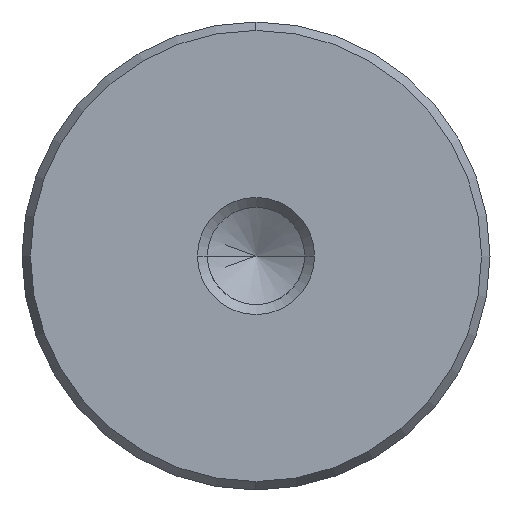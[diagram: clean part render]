
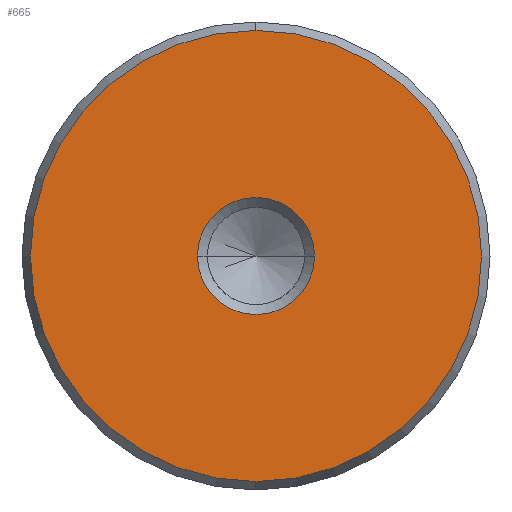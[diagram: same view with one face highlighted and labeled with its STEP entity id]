
A CAD part, left-side view. The second image highlights one B-rep face of the part: STEP entity #665.
In plain terms, the highlighted planar face has unit normal (-1, 0, 0).
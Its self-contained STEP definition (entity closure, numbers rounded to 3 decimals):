
#579=CARTESIAN_POINT('Vertex',(0.,0.,-15.423)) ;
#582=CARTESIAN_POINT('Axis2P3D Location',(0.,0.,0.)) ;
#586=CARTESIAN_POINT('Vertex',(0.,15.423,0.)) ;
#589=CARTESIAN_POINT('Axis2P3D Location',(0.,0.,0.)) ;
#593=CARTESIAN_POINT('Vertex',(0.,0.,15.423)) ;
#615=CARTESIAN_POINT('Axis2P3D Location',(0.,0.,0.)) ;
#619=CARTESIAN_POINT('Vertex',(0.,-15.423,0.)) ;
#622=CARTESIAN_POINT('Axis2P3D Location',(0.,0.,0.)) ;
#636=CARTESIAN_POINT('Axis2P3D Location',(0.,0.,0.)) ;
#647=CARTESIAN_POINT('Axis2P3D Location',(0.,0.,0.)) ;
#651=CARTESIAN_POINT('Vertex',(0.,4.,0.)) ;
#653=CARTESIAN_POINT('Vertex',(0.,-4.,0.)) ;
#656=CARTESIAN_POINT('Axis2P3D Location',(0.,0.,0.)) ;
#583=DIRECTION('Axis2P3D Direction',(1.,0.,-0.)) ;
#590=DIRECTION('Axis2P3D Direction',(1.,0.,-0.)) ;
#616=DIRECTION('Axis2P3D Direction',(1.,0.,-0.)) ;
#623=DIRECTION('Axis2P3D Direction',(1.,0.,-0.)) ;
#637=DIRECTION('Axis2P3D Direction',(1.,0.,-0.)) ;
#638=DIRECTION('Axis2P3D XDirection',(-0.,0.,-1.)) ;
#648=DIRECTION('Axis2P3D Direction',(1.,0.,-0.)) ;
#657=DIRECTION('Axis2P3D Direction',(1.,0.,-0.)) ;
#584=AXIS2_PLACEMENT_3D('Circle Axis2P3D',#582,#583,$) ;
#591=AXIS2_PLACEMENT_3D('Circle Axis2P3D',#589,#590,$) ;
#617=AXIS2_PLACEMENT_3D('Circle Axis2P3D',#615,#616,$) ;
#624=AXIS2_PLACEMENT_3D('Circle Axis2P3D',#622,#623,$) ;
#639=AXIS2_PLACEMENT_3D('Plane Axis2P3D',#636,#637,#638) ;
#649=AXIS2_PLACEMENT_3D('Circle Axis2P3D',#647,#648,$) ;
#658=AXIS2_PLACEMENT_3D('Circle Axis2P3D',#656,#657,$) ;
#642=ORIENTED_EDGE('',*,*,#588,.F.) ;
#643=ORIENTED_EDGE('',*,*,#626,.F.) ;
#644=ORIENTED_EDGE('',*,*,#621,.F.) ;
#645=ORIENTED_EDGE('',*,*,#595,.F.) ;
#662=ORIENTED_EDGE('',*,*,#655,.T.) ;
#663=ORIENTED_EDGE('',*,*,#660,.T.) ;
#664=FACE_BOUND('',#661,.T.) ;
#665=ADVANCED_FACE('720-32x355',(#646,#664),#640,.F.) ;
#585=CIRCLE('generated circle',#584,15.423) ;
#592=CIRCLE('generated circle',#591,15.423) ;
#618=CIRCLE('generated circle',#617,15.423) ;
#625=CIRCLE('generated circle',#624,15.423) ;
#650=CIRCLE('generated circle',#649,4.) ;
#659=CIRCLE('generated circle',#658,4.) ;
#588=EDGE_CURVE('',#580,#587,#585,.T.) ;
#595=EDGE_CURVE('',#587,#594,#592,.T.) ;
#621=EDGE_CURVE('',#594,#620,#618,.T.) ;
#626=EDGE_CURVE('',#620,#580,#625,.T.) ;
#655=EDGE_CURVE('',#652,#654,#650,.T.) ;
#660=EDGE_CURVE('',#654,#652,#659,.T.) ;
#641=EDGE_LOOP('',(#642,#643,#644,#645)) ;
#661=EDGE_LOOP('',(#662,#663)) ;
#646=FACE_OUTER_BOUND('',#641,.T.) ;
#640=PLANE('Plane',#639) ;
#580=VERTEX_POINT('',#579) ;
#587=VERTEX_POINT('',#586) ;
#594=VERTEX_POINT('',#593) ;
#620=VERTEX_POINT('',#619) ;
#652=VERTEX_POINT('',#651) ;
#654=VERTEX_POINT('',#653) ;
